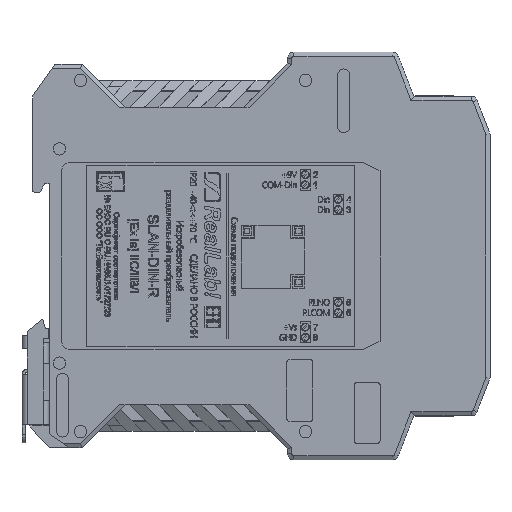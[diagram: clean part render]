
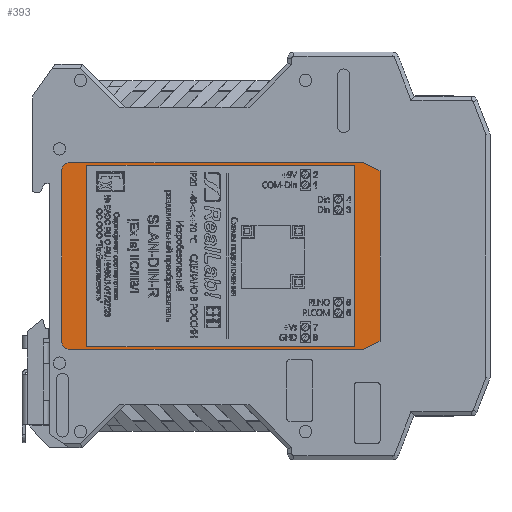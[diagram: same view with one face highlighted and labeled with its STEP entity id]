
A CAD part, front view. The second image highlights one B-rep face of the part: STEP entity #393.
In plain terms, the highlighted planar face has unit normal (0, -1, 0).
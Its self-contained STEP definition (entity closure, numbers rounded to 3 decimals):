
#393=ADVANCED_FACE('',(#62179,#62181),#62183,.T.);
#62179=FACE_BOUND('',#62180,.T.);
#62180=EDGE_LOOP('',(#110520,#110521,#110522,#110523,#110524,#110525,#110526,#110527));
#62181=FACE_BOUND('',#62182,.T.);
#62182=EDGE_LOOP('',(#110528,#110529,#110530,#110531));
#62183=PLANE('',#62184);
#62184=AXIS2_PLACEMENT_3D('',#62185,#62186,#62187);
#62185=CARTESIAN_POINT('',(103.85,0.2,0.));
#62186=DIRECTION('',(0.,-1.,0.));
#62187=DIRECTION('',(0.,0.,-1.));
#110520=ORIENTED_EDGE('',*,*,#161886,.T.);
#110521=ORIENTED_EDGE('',*,*,#161887,.T.);
#110522=ORIENTED_EDGE('',*,*,#161888,.T.);
#110523=ORIENTED_EDGE('',*,*,#161889,.T.);
#110524=ORIENTED_EDGE('',*,*,#161890,.T.);
#110525=ORIENTED_EDGE('',*,*,#161891,.F.);
#110526=ORIENTED_EDGE('',*,*,#161892,.T.);
#110527=ORIENTED_EDGE('',*,*,#161893,.F.);
#110528=ORIENTED_EDGE('',*,*,#161682,.T.);
#110529=ORIENTED_EDGE('',*,*,#161672,.T.);
#110530=ORIENTED_EDGE('',*,*,#161676,.T.);
#110531=ORIENTED_EDGE('',*,*,#161679,.T.);
#161672=EDGE_CURVE('',#181574,#181575,#181576,.T.);
#161676=EDGE_CURVE('',#181575,#181582,#181583,.T.);
#161679=EDGE_CURVE('',#181582,#181587,#181588,.T.);
#161682=EDGE_CURVE('',#181587,#181574,#181592,.T.);
#161886=EDGE_CURVE('',#181968,#181969,#181970,.T.);
#161887=EDGE_CURVE('',#181969,#181971,#181972,.T.);
#161888=EDGE_CURVE('',#181971,#181973,#181974,.T.);
#161889=EDGE_CURVE('',#181973,#181975,#181976,.T.);
#161890=EDGE_CURVE('',#181975,#181977,#181978,.T.);
#161891=EDGE_CURVE('',#181979,#181977,#181980,.T.);
#161892=EDGE_CURVE('',#181979,#181981,#181982,.T.);
#161893=EDGE_CURVE('',#181968,#181981,#181983,.T.);
#181574=VERTEX_POINT('',#214041);
#181575=VERTEX_POINT('',#214042);
#181576=LINE('',#214043,#214044);
#181582=VERTEX_POINT('',#214057);
#181583=LINE('',#214058,#214059);
#181587=VERTEX_POINT('',#214068);
#181588=LINE('',#214069,#214070);
#181592=LINE('',#214079,#214080);
#181968=VERTEX_POINT('',#214871);
#181969=VERTEX_POINT('',#214872);
#181970=LINE('',#214873,#214874);
#181971=VERTEX_POINT('',#214876);
#181972=LINE('',#214877,#214878);
#181973=VERTEX_POINT('',#214880);
#181974=LINE('',#214881,#214882);
#181975=VERTEX_POINT('',#214884);
#181976=LINE('',#214885,#214886);
#181977=VERTEX_POINT('',#214888);
#181978=LINE('',#214889,#214890);
#181979=VERTEX_POINT('',#214892);
#181980=CIRCLE('',#214893,2.);
#181981=VERTEX_POINT('',#214897);
#181982=LINE('',#214898,#214899);
#181983=CIRCLE('',#214901,2.);
#214041=CARTESIAN_POINT('',(74.15,0.2,-22.));
#214042=CARTESIAN_POINT('',(9.15,0.2,-22.));
#214043=CARTESIAN_POINT('',(74.15,0.2,-22.));
#214044=VECTOR('',#214045,1.);
#214045=DIRECTION('',(-1.,0.,0.));
#214057=CARTESIAN_POINT('',(9.15,0.2,22.));
#214058=CARTESIAN_POINT('',(9.15,0.2,-22.));
#214059=VECTOR('',#214060,1.);
#214060=DIRECTION('',(0.,0.,1.));
#214068=CARTESIAN_POINT('',(74.15,0.2,22.));
#214069=CARTESIAN_POINT('',(9.15,0.2,22.));
#214070=VECTOR('',#214071,1.);
#214071=DIRECTION('',(1.,0.,0.));
#214079=CARTESIAN_POINT('',(74.15,0.2,22.));
#214080=VECTOR('',#214081,1.);
#214081=DIRECTION('',(0.,0.,-1.));
#214871=CARTESIAN_POINT('',(5.,0.2,-22.65));
#214872=CARTESIAN_POINT('',(76.3,0.2,-22.65));
#214873=CARTESIAN_POINT('',(5.,0.2,-22.65));
#214874=VECTOR('',#214875,1.);
#214875=DIRECTION('',(1.,0.,0.));
#214876=CARTESIAN_POINT('',(80.3,0.2,-20.65));
#214877=CARTESIAN_POINT('',(76.3,0.2,-22.65));
#214878=VECTOR('',#214879,1.);
#214879=DIRECTION('',(0.894,0.,0.447));
#214880=CARTESIAN_POINT('',(80.3,0.2,20.65));
#214881=CARTESIAN_POINT('',(80.3,0.2,-20.65));
#214882=VECTOR('',#214883,1.);
#214883=DIRECTION('',(0.,0.,1.));
#214884=CARTESIAN_POINT('',(76.3,0.2,22.65));
#214885=CARTESIAN_POINT('',(80.3,0.2,20.65));
#214886=VECTOR('',#214887,1.);
#214887=DIRECTION('',(-0.894,0.,0.447));
#214888=CARTESIAN_POINT('',(5.,0.2,22.65));
#214889=CARTESIAN_POINT('',(76.3,0.2,22.65));
#214890=VECTOR('',#214891,1.);
#214891=DIRECTION('',(-1.,0.,0.));
#214892=CARTESIAN_POINT('',(3.,0.2,20.65));
#214893=AXIS2_PLACEMENT_3D('',#214894,#214895,#214896);
#214894=CARTESIAN_POINT('',(5.,0.2,20.65));
#214895=DIRECTION('',(0.,1.,0.));
#214896=DIRECTION('',(-1.,0.,0.));
#214897=CARTESIAN_POINT('',(3.,0.2,-20.65));
#214898=CARTESIAN_POINT('',(3.,0.2,20.65));
#214899=VECTOR('',#214900,1.);
#214900=DIRECTION('',(0.,0.,-1.));
#214901=AXIS2_PLACEMENT_3D('',#214902,#214903,#214904);
#214902=CARTESIAN_POINT('',(5.,0.2,-20.65));
#214903=DIRECTION('',(0.,1.,0.));
#214904=DIRECTION('',(0.,0.,-1.));
